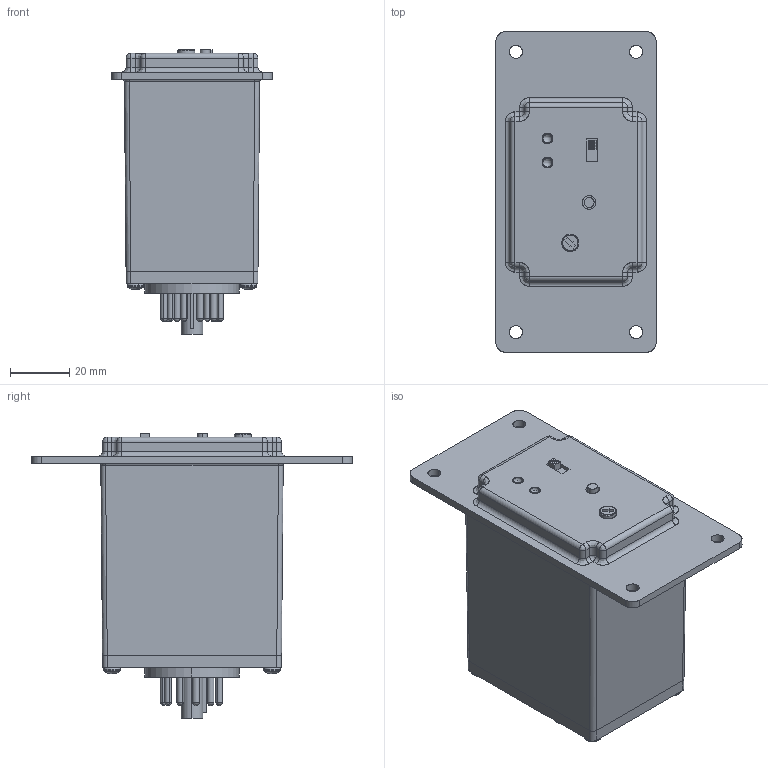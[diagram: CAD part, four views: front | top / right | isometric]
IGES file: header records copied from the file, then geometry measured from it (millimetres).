
Start section: SolidWorks IGES file using analytic representation for surfaces
Global section: file name: D:\Modeling Work\Macromatic\2019\TCF eCAD Package\3D\TCF.IGS; native system: SolidWorks 2019; preprocessor: SolidWorks 2019; author: mdahl; date: 190519.171849; units: millimetre
Bounding box: 53.98 x 107.95 x 96.01 mm (x, y, z)
Surface area: 36081.3 mm2 (no closed solid volume)
Topology: 0 solids, 0 shells, 848 faces, 11111 edges, 11057 vertices
Faces by surface type: bspline 456, revolution 392
